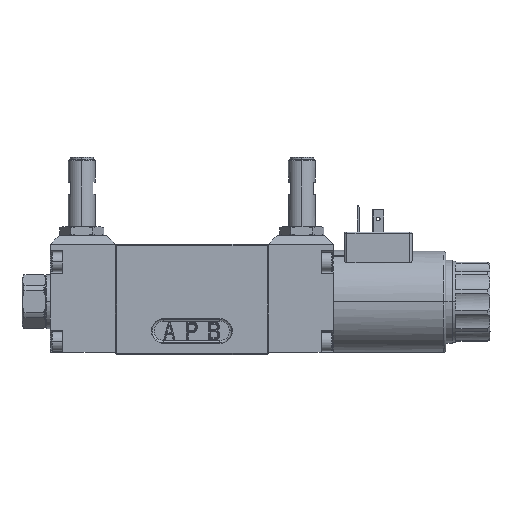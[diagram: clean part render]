
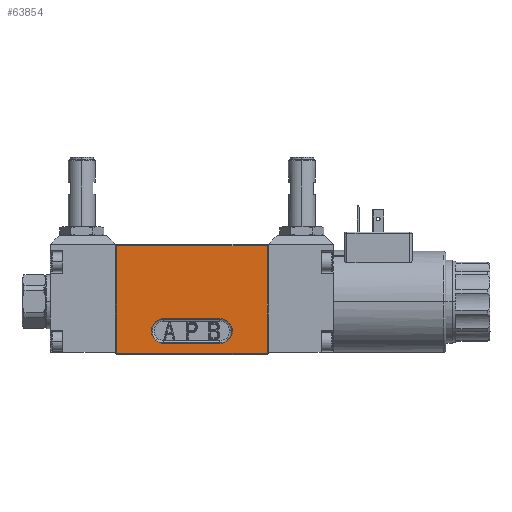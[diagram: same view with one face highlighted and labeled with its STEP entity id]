
A CAD part, top view. The second image highlights one B-rep face of the part: STEP entity #63854.
In plain terms, the highlighted planar face has unit normal (0, 0, 1).
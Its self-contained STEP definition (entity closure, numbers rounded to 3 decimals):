
#2054 = ORIENTED_EDGE ( 'NONE', *, *, #58409, .T. ) ;
#2710 = LINE ( 'NONE', #13602, #66876 ) ;
#4123 = CARTESIAN_POINT ( 'NONE',  ( -12.5, -18.971, 23. ) ) ;
#5058 = CARTESIAN_POINT ( 'NONE',  ( 33.5, 24.5, 23. ) ) ;
#5837 = LINE ( 'NONE', #33861, #40550 ) ;
#6667 = LINE ( 'NONE', #19764, #26962 ) ;
#7483 = DIRECTION ( 'NONE',  ( 1., 0., 0. ) ) ;
#8873 = VERTEX_POINT ( 'NONE', #13803 ) ;
#12749 = EDGE_CURVE ( 'NONE', #90986, #8873, #5837, .T. ) ;
#13060 = DIRECTION ( 'NONE',  ( -1., 0., 0. ) ) ;
#13070 = LINE ( 'NONE', #22405, #59244 ) ;
#13602 = CARTESIAN_POINT ( 'NONE',  ( -35., -23.5, 23. ) ) ;
#13803 = CARTESIAN_POINT ( 'NONE',  ( -33.5, -23.5, 23. ) ) ;
#14946 = VERTEX_POINT ( 'NONE', #31435 ) ;
#15515 = LINE ( 'NONE', #63357, #89814 ) ;
#19122 = EDGE_CURVE ( 'NONE', #39912, #58511, #15515, .T. ) ;
#19744 = DIRECTION ( 'NONE',  ( 1., 0., 0. ) ) ;
#19764 = CARTESIAN_POINT ( 'NONE',  ( 12.5, -8.029, 23. ) ) ;
#19986 = AXIS2_PLACEMENT_3D ( 'NONE', #23119, #92358, #49135 ) ;
#22405 = CARTESIAN_POINT ( 'NONE',  ( -35., 24.5, 23. ) ) ;
#22827 = VERTEX_POINT ( 'NONE', #4123 ) ;
#23119 = CARTESIAN_POINT ( 'NONE',  ( 12.5, -13.5, 23. ) ) ;
#25359 = CARTESIAN_POINT ( 'NONE',  ( 12.5, -18.971, 23. ) ) ;
#26962 = VECTOR ( 'NONE', #84279, 1000. ) ;
#28356 = EDGE_CURVE ( 'NONE', #14946, #22827, #47885, .T. ) ;
#28377 = AXIS2_PLACEMENT_3D ( 'NONE', #62919, #84558, #19744 ) ;
#29446 = CARTESIAN_POINT ( 'NONE',  ( -35., -24., 23. ) ) ;
#30904 = ORIENTED_EDGE ( 'NONE', *, *, #90207, .T. ) ;
#31364 = EDGE_CURVE ( 'NONE', #58511, #90986, #13070, .T. ) ;
#31435 = CARTESIAN_POINT ( 'NONE',  ( 12.5, -18.971, 23. ) ) ;
#31606 = VERTEX_POINT ( 'NONE', #83740 ) ;
#33861 = CARTESIAN_POINT ( 'NONE',  ( -33.5, -24., 23. ) ) ;
#36961 = EDGE_CURVE ( 'NONE', #31606, #14946, #90296, .T. ) ;
#37453 = CARTESIAN_POINT ( 'NONE',  ( -33.5, 24.5, 23. ) ) ;
#38185 = CARTESIAN_POINT ( 'NONE',  ( 33.5, -23.5, 23. ) ) ;
#39509 = FACE_OUTER_BOUND ( 'NONE', #58858, .T. ) ;
#39757 = AXIS2_PLACEMENT_3D ( 'NONE', #46230, #53566, #60920 ) ;
#39912 = VERTEX_POINT ( 'NONE', #38185 ) ;
#40550 = VECTOR ( 'NONE', #84221, 1000. ) ;
#42699 = ORIENTED_EDGE ( 'NONE', *, *, #31364, .T. ) ;
#42702 = DIRECTION ( 'NONE',  ( 1., 0., 0. ) ) ;
#46230 = CARTESIAN_POINT ( 'NONE',  ( 12.5, -13.5, 23. ) ) ;
#47680 = VERTEX_POINT ( 'NONE', #48202 ) ;
#47885 = LINE ( 'NONE', #25359, #85089 ) ;
#48202 = CARTESIAN_POINT ( 'NONE',  ( 12.5, -8.029, 23. ) ) ;
#49135 = DIRECTION ( 'NONE',  ( 1., 0., 0. ) ) ;
#50894 = ORIENTED_EDGE ( 'NONE', *, *, #36961, .T. ) ;
#53433 = ORIENTED_EDGE ( 'NONE', *, *, #86284, .T. ) ;
#53566 = DIRECTION ( 'NONE',  ( 0., 0., -1. ) ) ;
#55067 = CIRCLE ( 'NONE', #28377, 5.471 ) ;
#57185 = PLANE ( 'NONE',  #78999 ) ;
#57973 = ORIENTED_EDGE ( 'NONE', *, *, #28356, .T. ) ;
#58409 = EDGE_CURVE ( 'NONE', #74189, #47680, #6667, .T. ) ;
#58511 = VERTEX_POINT ( 'NONE', #5058 ) ;
#58858 = EDGE_LOOP ( 'NONE', ( #59985, #92754, #42699, #78491 ) ) ;
#59244 = VECTOR ( 'NONE', #59284, 1000. ) ;
#59284 = DIRECTION ( 'NONE',  ( -1., 0., 0. ) ) ;
#59985 = ORIENTED_EDGE ( 'NONE', *, *, #85038, .T. ) ;
#60920 = DIRECTION ( 'NONE',  ( 1., 0., 0. ) ) ;
#62919 = CARTESIAN_POINT ( 'NONE',  ( -12.5, -13.5, 23. ) ) ;
#63357 = CARTESIAN_POINT ( 'NONE',  ( 33.5, -24., 23. ) ) ;
#63854 = ADVANCED_FACE ( 'NONE', ( #91407, #39509 ), #57185, .T. ) ;
#64768 = DIRECTION ( 'NONE',  ( 0., 0., 1. ) ) ;
#66876 = VECTOR ( 'NONE', #42702, 1000. ) ;
#74189 = VERTEX_POINT ( 'NONE', #82083 ) ;
#78491 = ORIENTED_EDGE ( 'NONE', *, *, #12749, .T. ) ;
#78999 = AXIS2_PLACEMENT_3D ( 'NONE', #29446, #64768, #7483 ) ;
#82083 = CARTESIAN_POINT ( 'NONE',  ( -12.5, -8.029, 23. ) ) ;
#83740 = CARTESIAN_POINT ( 'NONE',  ( 17.971, -13.5, 23. ) ) ;
#84221 = DIRECTION ( 'NONE',  ( 0., -1., 0. ) ) ;
#84279 = DIRECTION ( 'NONE',  ( 1., 0., 0. ) ) ;
#84558 = DIRECTION ( 'NONE',  ( 0., 0., -1. ) ) ;
#84676 = DIRECTION ( 'NONE',  ( 0., 1., 0. ) ) ;
#85038 = EDGE_CURVE ( 'NONE', #8873, #39912, #2710, .T. ) ;
#85089 = VECTOR ( 'NONE', #13060, 1000. ) ;
#86284 = EDGE_CURVE ( 'NONE', #22827, #74189, #55067, .T. ) ;
#86374 = CIRCLE ( 'NONE', #19986, 5.471 ) ;
#89793 = EDGE_LOOP ( 'NONE', ( #30904, #50894, #57973, #53433, #2054 ) ) ;
#89814 = VECTOR ( 'NONE', #84676, 1000. ) ;
#90207 = EDGE_CURVE ( 'NONE', #47680, #31606, #86374, .T. ) ;
#90296 = CIRCLE ( 'NONE', #39757, 5.471 ) ;
#90986 = VERTEX_POINT ( 'NONE', #37453 ) ;
#91407 = FACE_BOUND ( 'NONE', #89793, .T. ) ;
#92358 = DIRECTION ( 'NONE',  ( 0., 0., -1. ) ) ;
#92754 = ORIENTED_EDGE ( 'NONE', *, *, #19122, .T. ) ;
